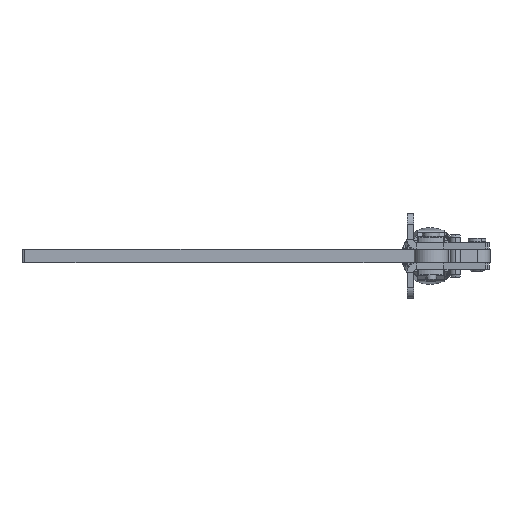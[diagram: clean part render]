
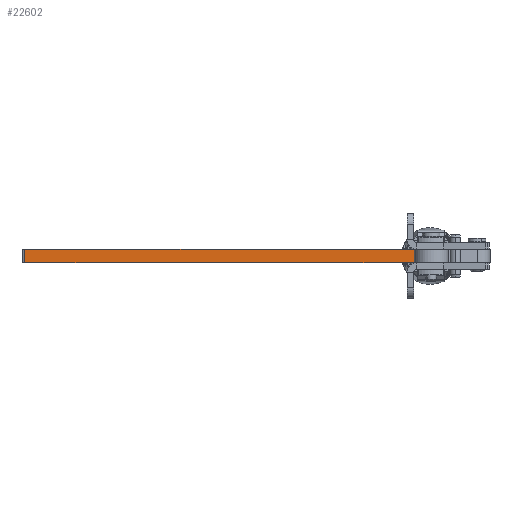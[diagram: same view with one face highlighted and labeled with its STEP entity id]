
A CAD part, front view. The second image highlights one B-rep face of the part: STEP entity #22602.
In plain terms, the highlighted planar face has unit normal (0, -1, 0).
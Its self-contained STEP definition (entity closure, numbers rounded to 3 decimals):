
#125 = ORIENTED_EDGE ( 'NONE', *, *, #9255, .F. ) ;
#163 = EDGE_CURVE ( 'NONE', #5277, #17975, #5483, .T. ) ;
#185 = EDGE_CURVE ( 'NONE', #5859, #22894, #2128, .T. ) ;
#318 = EDGE_CURVE ( 'NONE', #22894, #17975, #19469, .T. ) ;
#445 = VECTOR ( 'NONE', #2094, 1000. ) ;
#1084 = CARTESIAN_POINT ( 'NONE',  ( 4510.215, 2376.489, -0.2 ) ) ;
#1592 = EDGE_CURVE ( 'NONE', #17487, #5277, #1969, .T. ) ;
#1666 = LINE ( 'NONE', #5639, #20930 ) ;
#1969 = LINE ( 'NONE', #11366, #445 ) ;
#2094 = DIRECTION ( 'NONE',  ( 1., 0., 0. ) ) ;
#2128 = LINE ( 'NONE', #13003, #5163 ) ;
#2735 = DIRECTION ( 'NONE',  ( 1., 0., 0. ) ) ;
#2774 = VECTOR ( 'NONE', #10167, 1000. ) ;
#2837 = CARTESIAN_POINT ( 'NONE',  ( 4460.215, 2376.489, 0. ) ) ;
#2879 = VERTEX_POINT ( 'NONE', #3678 ) ;
#2971 = VERTEX_POINT ( 'NONE', #16983 ) ;
#3678 = CARTESIAN_POINT ( 'NONE',  ( 4460.415, 2376.489, 0. ) ) ;
#3786 = CARTESIAN_POINT ( 'NONE',  ( 4460.215, 2376.489, -0.2 ) ) ;
#3944 = CARTESIAN_POINT ( 'NONE',  ( 4412.971, 2376.489, 0. ) ) ;
#3986 = DIRECTION ( 'NONE',  ( 0., 0., 1. ) ) ;
#4000 = ORIENTED_EDGE ( 'NONE', *, *, #21833, .T. ) ;
#4053 = DIRECTION ( 'NONE',  ( 1., 0., 0. ) ) ;
#4056 = EDGE_CURVE ( 'NONE', #14868, #19952, #9897, .T. ) ;
#4211 = EDGE_CURVE ( 'NONE', #8732, #2879, #10976, .T. ) ;
#4811 = DIRECTION ( 'NONE',  ( 0., 0., -1. ) ) ;
#4937 = DIRECTION ( 'NONE',  ( 0., 0., 1. ) ) ;
#5163 = VECTOR ( 'NONE', #3986, 1000. ) ;
#5277 = VERTEX_POINT ( 'NONE', #12007 ) ;
#5483 = LINE ( 'NONE', #20697, #13026 ) ;
#5639 = CARTESIAN_POINT ( 'NONE',  ( 4412.971, 2376.489, -5. ) ) ;
#5681 = LINE ( 'NONE', #8028, #8768 ) ;
#5859 = VERTEX_POINT ( 'NONE', #18547 ) ;
#6557 = CARTESIAN_POINT ( 'NONE',  ( 4559.415, 2376.489, 0. ) ) ;
#6614 = ORIENTED_EDGE ( 'NONE', *, *, #8009, .F. ) ;
#6768 = AXIS2_PLACEMENT_3D ( 'NONE', #15709, #23178, #12025 ) ;
#7015 = EDGE_CURVE ( 'NONE', #20762, #14868, #23153, .T. ) ;
#8009 = EDGE_CURVE ( 'NONE', #2971, #15013, #8279, .T. ) ;
#8028 = CARTESIAN_POINT ( 'NONE',  ( 4559.415, 2376.489, -0.2 ) ) ;
#8279 = LINE ( 'NONE', #13936, #13278 ) ;
#8349 = PLANE ( 'NONE',  #6768 ) ;
#8732 = VERTEX_POINT ( 'NONE', #20592 ) ;
#8768 = VECTOR ( 'NONE', #4053, 1000. ) ;
#9255 = EDGE_CURVE ( 'NONE', #2879, #2971, #22135, .T. ) ;
#9897 = LINE ( 'NONE', #11245, #19274 ) ;
#9933 = CARTESIAN_POINT ( 'NONE',  ( 4559.415, 2376.489, 0. ) ) ;
#10167 = DIRECTION ( 'NONE',  ( 1., 0., 0. ) ) ;
#10751 = ORIENTED_EDGE ( 'NONE', *, *, #1592, .T. ) ;
#10976 = LINE ( 'NONE', #12711, #14208 ) ;
#11243 = DIRECTION ( 'NONE',  ( -1., 0., 0. ) ) ;
#11245 = CARTESIAN_POINT ( 'NONE',  ( 4460.215, 2376.489, -5. ) ) ;
#11258 = ORIENTED_EDGE ( 'NONE', *, *, #11515, .F. ) ;
#11298 = DIRECTION ( 'NONE',  ( 0., 0., 1. ) ) ;
#11366 = CARTESIAN_POINT ( 'NONE',  ( 4412.971, 2376.489, -5. ) ) ;
#11515 = EDGE_CURVE ( 'NONE', #17487, #20762, #1666, .T. ) ;
#12007 = CARTESIAN_POINT ( 'NONE',  ( 4559.415, 2376.489, -5. ) ) ;
#12025 = DIRECTION ( 'NONE',  ( 0., 0., -1. ) ) ;
#12711 = CARTESIAN_POINT ( 'NONE',  ( 4460.415, 2376.489, -5. ) ) ;
#13003 = CARTESIAN_POINT ( 'NONE',  ( 4510.415, 2376.489, -5. ) ) ;
#13026 = VECTOR ( 'NONE', #14973, 1000. ) ;
#13278 = VECTOR ( 'NONE', #4811, 1000. ) ;
#13345 = DIRECTION ( 'NONE',  ( 0., 0., -1. ) ) ;
#13557 = ORIENTED_EDGE ( 'NONE', *, *, #318, .F. ) ;
#13844 = CARTESIAN_POINT ( 'NONE',  ( 4510.415, 2376.489, 0. ) ) ;
#13936 = CARTESIAN_POINT ( 'NONE',  ( 4510.215, 2376.489, -5. ) ) ;
#14208 = VECTOR ( 'NONE', #4937, 1000. ) ;
#14868 = VERTEX_POINT ( 'NONE', #2837 ) ;
#14924 = VECTOR ( 'NONE', #22005, 1000. ) ;
#14973 = DIRECTION ( 'NONE',  ( 0., 0., 1. ) ) ;
#14977 = VECTOR ( 'NONE', #11243, 1000. ) ;
#15013 = VERTEX_POINT ( 'NONE', #1084 ) ;
#15105 = ORIENTED_EDGE ( 'NONE', *, *, #185, .F. ) ;
#15709 = CARTESIAN_POINT ( 'NONE',  ( 4559.415, 2376.489, -5. ) ) ;
#16966 = ORIENTED_EDGE ( 'NONE', *, *, #17375, .F. ) ;
#16983 = CARTESIAN_POINT ( 'NONE',  ( 4510.215, 2376.489, 0. ) ) ;
#17375 = EDGE_CURVE ( 'NONE', #15013, #5859, #5681, .T. ) ;
#17487 = VERTEX_POINT ( 'NONE', #17819 ) ;
#17643 = FACE_OUTER_BOUND ( 'NONE', #22079, .T. ) ;
#17819 = CARTESIAN_POINT ( 'NONE',  ( 4412.971, 2376.489, -5. ) ) ;
#17922 = VECTOR ( 'NONE', #2735, 1000. ) ;
#17975 = VERTEX_POINT ( 'NONE', #6557 ) ;
#18063 = ORIENTED_EDGE ( 'NONE', *, *, #4211, .F. ) ;
#18074 = CARTESIAN_POINT ( 'NONE',  ( 4559.415, 2376.489, 0. ) ) ;
#18547 = CARTESIAN_POINT ( 'NONE',  ( 4510.415, 2376.489, -0.2 ) ) ;
#18720 = CARTESIAN_POINT ( 'NONE',  ( 4559.415, 2376.489, -0.2 ) ) ;
#18884 = ORIENTED_EDGE ( 'NONE', *, *, #7015, .F. ) ;
#19274 = VECTOR ( 'NONE', #13345, 1000. ) ;
#19469 = LINE ( 'NONE', #9933, #2774 ) ;
#19580 = CARTESIAN_POINT ( 'NONE',  ( 4559.415, 2376.489, 0. ) ) ;
#19952 = VERTEX_POINT ( 'NONE', #3786 ) ;
#20189 = ORIENTED_EDGE ( 'NONE', *, *, #163, .T. ) ;
#20527 = ORIENTED_EDGE ( 'NONE', *, *, #4056, .F. ) ;
#20592 = CARTESIAN_POINT ( 'NONE',  ( 4460.415, 2376.489, -0.2 ) ) ;
#20697 = CARTESIAN_POINT ( 'NONE',  ( 4559.415, 2376.489, -5. ) ) ;
#20762 = VERTEX_POINT ( 'NONE', #3944 ) ;
#20930 = VECTOR ( 'NONE', #11298, 1000. ) ;
#21833 = EDGE_CURVE ( 'NONE', #8732, #19952, #24351, .T. ) ;
#22005 = DIRECTION ( 'NONE',  ( 1., 0., 0. ) ) ;
#22079 = EDGE_LOOP ( 'NONE', ( #18063, #4000, #20527, #18884, #11258, #10751, #20189, #13557, #15105, #16966, #6614, #125 ) ) ;
#22135 = LINE ( 'NONE', #18074, #14924 ) ;
#22602 = ADVANCED_FACE ( 'NONE', ( #17643 ), #8349, .T. ) ;
#22894 = VERTEX_POINT ( 'NONE', #13844 ) ;
#23153 = LINE ( 'NONE', #19580, #17922 ) ;
#23178 = DIRECTION ( 'NONE',  ( 0., -1., 0. ) ) ;
#24351 = LINE ( 'NONE', #18720, #14977 ) ;
